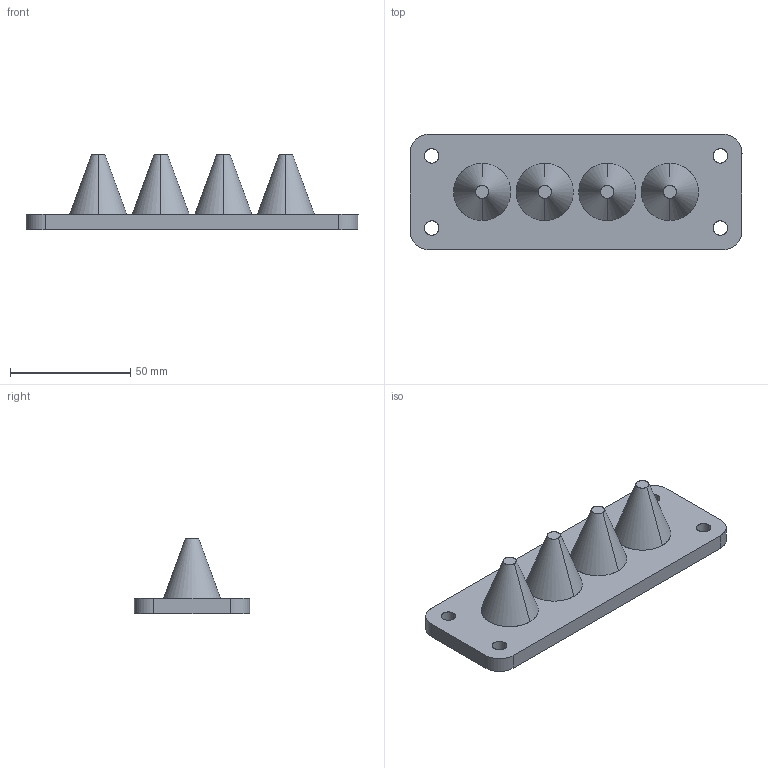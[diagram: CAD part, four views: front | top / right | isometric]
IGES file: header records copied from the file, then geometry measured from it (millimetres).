
Start section: SolidWorks IGES file using analytic representation for surfaces
Global section: file name: C:\Solidworks\omat tuotteet\Space charge models\Multigate\ip54\IGES\100216.IGS; native system: SolidWorks 2012; preprocessor: SolidWorks 2012; author: joni.lehtonen; date: 121211.073524; units: millimetre
Bounding box: 138 x 48 x 31.57 mm (x, y, z)
Surface area: 18948.2 mm2 (no closed solid volume)
Topology: 0 solids, 0 shells, 30 faces, 680 edges, 680 vertices
Faces by surface type: revolution 20, bspline 10
